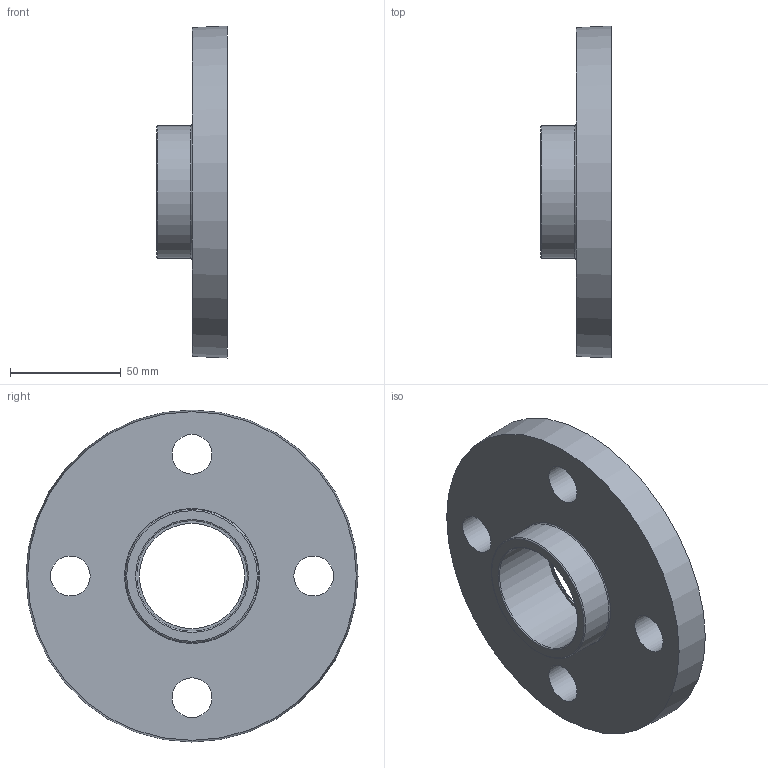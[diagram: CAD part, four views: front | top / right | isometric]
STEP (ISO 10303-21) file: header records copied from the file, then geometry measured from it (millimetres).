
FILE_DESCRIPTION(/* description */ ('PLASSON FIXED FLANGE-CEM PVC 50'),/* implementation_level */ '2;1');
FILE_NAME(/* name */ 'C:\Dropbox\KIMPROJECTS-Inventor\99-16-3568-Processing\PVC Catalog 2017\26_09_18\059200\059200050.ipt.stp',/* time_stamp */ '2018-09-27T11:51:31+03:00',/* author */ ('KIM'),/* organization */ (''),/* preprocessor_version */ 'ST-DEVELOPER v15.6',/* originating_system */ 'Autodesk Inventor 2015',/* authorisation */ '');
FILE_SCHEMA (('AUTOMOTIVE_DESIGN { 1 0 10303 214 3 1 1 }'));
Length unit declared in the file: millimetre
Products named in the file (1): 059200050
Bounding box: 32 x 150 x 150 mm (x, y, z)
Volume: 246107.4 mm3; surface area: 48733 mm2
Topology: 1 solids, 1 shells, 28 faces, 50 edges, 32 vertices
Faces by surface type: cylinder 13, plane 10, torus 4, cone 1
Full cylindrical faces by diameter (mm): 18 x4, 47.5 x1, 50 x2, 51.5 x1, 53 x1, 54.5 x1, 56 x1, 57.5 x1, 60 x1
Entity records: 648 total; most frequent: DIRECTION 122, CARTESIAN_POINT 93, EDGE_LOOP 64, ORIENTED_EDGE 64, AXIS2_PLACEMENT_3D 61, FACE_BOUND 36, CIRCLE 32, VERTEX_POINT 32
